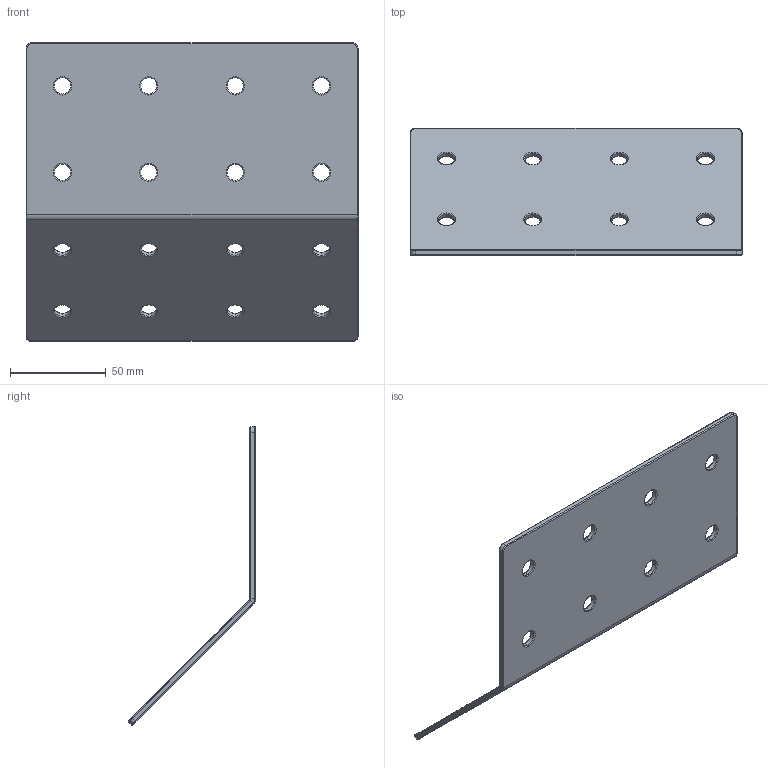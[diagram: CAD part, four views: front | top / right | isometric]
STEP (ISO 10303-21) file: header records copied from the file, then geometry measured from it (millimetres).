
FILE_DESCRIPTION (( 'STEP AP214' ), '1' );
FILE_NAME ('8490180s.STEP', '2026-09-11T08:33:54', ( '' ), ( '' ), 'SwSTEP 2.0', 'SolidWorks 2022', '' );
FILE_SCHEMA (( 'AUTOMOTIVE_DESIGN' ));
Length unit declared in the file: millimetre
Products named in the file (1): 8490180s
Bounding box: 173 x 66.43 x 155.55 mm (x, y, z)
Volume: 91144.2 mm3; surface area: 63753.8 mm2
Topology: 1 solids, 1 shells, 139 faces, 315 edges, 178 vertices
Faces by surface type: torus 76, cylinder 51, plane 12
Entity records: 4021 total; most frequent: DIRECTION 837, CARTESIAN_POINT 633, ORIENTED_EDGE 630, AXIS2_PLACEMENT_3D 382, EDGE_CURVE 315, CIRCLE 242, VERTEX_POINT 178, EDGE_LOOP 171
